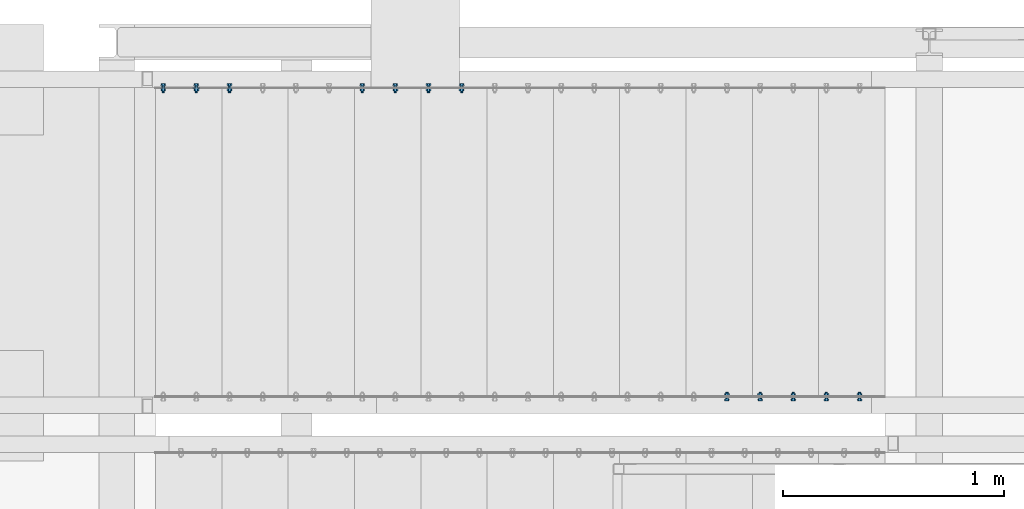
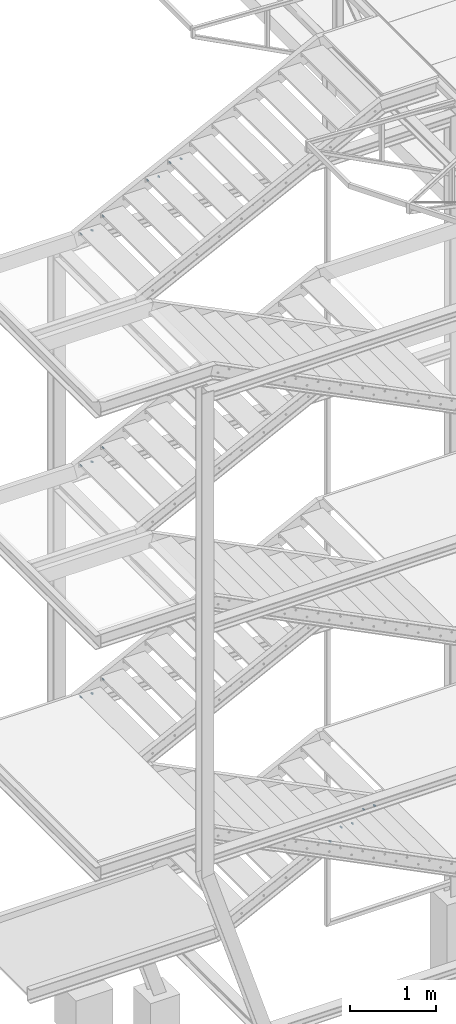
# One storey, part 110 of 132: 18 mechanical fasteners, 11 elements without a shape of their own.
"""IFC2X3 building model written with IfcOpenShell, lengths in millimetres."""

from ifc_helpers import new_model, si_unit, frame, frame_2d, origin_with_axes, origin_2d_with_axis, place, context, subcontext, project, spatial, polyline, circle_curve, parameter, trimmed, segment, composite_curve, circle, outline, extrude, source, transform, mapped, material, type_object, element, aggregate, save


model = new_model("IFC2X3")

# Units and contexts
model_context = context("Model", 3, precision=1e-05, world=origin_with_axes())
body_context = subcontext(model_context, "Body", "Model", "MODEL_VIEW")
ifc_project = project(units=[si_unit("LENGTHUNIT", "METRE", prefix="MILLI"), si_unit("AREAUNIT", "SQUARE_METRE"), si_unit("VOLUMEUNIT", "CUBIC_METRE"), si_unit("MASSUNIT", "GRAM", prefix="KILO"), si_unit("TIMEUNIT", "SECOND"), si_unit("PLANEANGLEUNIT", "RADIAN"), si_unit("SOLIDANGLEUNIT", "STERADIAN"), si_unit("THERMODYNAMICTEMPERATUREUNIT", "DEGREE_CELSIUS"), si_unit("LUMINOUSINTENSITYUNIT", "LUMEN")], contexts=[model_context])

# Site, building, storey
site_placement = place(None, origin_with_axes())
site = spatial("IfcSite", under=ifc_project, at=site_placement, Name="Budowa", CompositionType="ELEMENT")
building_placement = place(site_placement, origin_with_axes())
building = spatial("IfcBuilding", under=site, at=building_placement, Name="Undefined", CompositionType="ELEMENT")
storey_placement = place(building_placement, origin_with_axes())
storey = spatial("IfcBuildingStorey", under=building, at=storey_placement, Name="Undefined", CompositionType="ELEMENT", Elevation=0.0)

# Assembly, mechanical fastener
assembly_1_placement = place(storey_placement, origin_with_axes())
assembly_1 = element("IfcElementAssembly", 1, at=assembly_1_placement, inside=storey, Name="Steel Assembly", AssemblyPlace="NOTDEFINED", PredefinedType="RIGID_FRAME")
ifc_material = material(Name="Undefined")
discrete_accessory_type = type_object("IfcDiscreteAccessoryType", Name="Bolt assembly")
shared_shape_1 = source(origin_with_axes(), body_context, "Body", "SweptSolid", [
    extrude(circle(Radius=7.5, at=origin_2d_with_axis()), frame((0.0, -8.40000000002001, 0.0), z_axis=(0.0, 1.0, 0.0), x_axis=(1.0, 0.0, 0.0)), (0.0, 0.0, 1.0), 8.5),
    extrude(circle(Radius=7.5, at=origin_2d_with_axis()), frame((0.0, -0.1, 0.0), z_axis=(0.0, 1.0, 0.0), x_axis=(1.0, 0.0, 0.0)), (0.0, 0.0, 1.0), 3.1),
    extrude(outline(polyline([(10.39230484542, 0.0), (5.19615242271, 9.00000000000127), (-5.19615242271, 9.00000000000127), (-10.39230484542, 0.0), (-5.19615242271, -9.00000000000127), (5.19615242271, -9.00000000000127), (10.39230484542, 0.0)])), frame((0.0, -18.50000000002, 0.0), z_axis=(0.0, 1.0, 0.0), x_axis=(1.0, 0.0, 0.0)), (0.0, 0.0, 1.0), 7.5),
    extrude(circle(Radius=6.0, at=origin_2d_with_axis()), frame((0.0, -11.00000000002, 0.0), z_axis=(0.0, 1.0, 0.0), x_axis=(1.0, 0.0, 0.0)), (0.0, 0.0, 1.0), 35.0),
    extrude(circle(Radius=12.0, at=origin_2d_with_axis()), frame((0.0, -11.00000000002, 0.0), z_axis=(0.0, 1.0, 0.0), x_axis=(1.0, 0.0, 0.0)), (0.0, 0.0, 1.0), 2.5),
    extrude(circle(Radius=12.0, at=origin_2d_with_axis()), frame((0.0, 3.0, 0.0), z_axis=(0.0, 1.0, 0.0), x_axis=(1.0, 0.0, 0.0)), (0.0, 0.0, 1.0), 2.5),
    extrude(outline(polyline([(10.96965511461, 0.0), (5.484827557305, 9.50000000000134), (-5.484827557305, 9.50000000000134), (-10.96965511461, 0.0), (-5.484827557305, -9.50000000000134), (5.484827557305, -9.50000000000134), (10.96965511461, 0.0)])), frame((0.0, 5.5, 0.0), z_axis=(0.0, 1.0, 0.0), x_axis=(1.0, 0.0, 0.0)), (0.0, 0.0, 1.0), 10.0),
])
mechanical_fastener_1_placement = place(assembly_1_placement, frame((-2920.00000008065, 10925.0000000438, 12949.9999999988), z_axis=(0.0, 0.0, -1.0), x_axis=(1.0, 0.0, 0.0)))
mechanical_fastener_1 = element("IfcMechanicalFastener", 2, at=mechanical_fastener_1_placement, type_object=discrete_accessory_type, material=ifc_material, Name="Bolt assembly", NominalDiameter=12.0, NominalLength=35.0, context=body_context, shape_type="MappedRepresentation", body=[
    mapped(shared_shape_1, transform((35.0, 0.0, 25.0))),
])

assembly_2_placement = place(storey_placement, origin_with_axes())
assembly_2 = element("IfcElementAssembly", 3, at=assembly_2_placement, inside=storey, Name="Steel Assembly", AssemblyPlace="NOTDEFINED", PredefinedType="RIGID_FRAME")
mechanical_fastener_2_placement = place(assembly_2_placement, frame((-3220.00000008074, 10925.0000000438, 12799.9999999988), z_axis=(0.0, 0.0, -1.0), x_axis=(1.0, 0.0, 0.0)))
mechanical_fastener_2 = element("IfcMechanicalFastener", 4, at=mechanical_fastener_2_placement, type_object=discrete_accessory_type, material=ifc_material, Name="Bolt assembly", NominalDiameter=12.0, NominalLength=35.0, context=body_context, shape_type="MappedRepresentation", body=[
    mapped(shared_shape_1, transform((35.0, 0.0, 25.0))),
])

assembly_3_placement = place(storey_placement, origin_with_axes())
assembly_3 = element("IfcElementAssembly", 5, at=assembly_3_placement, inside=storey, Name="Steel Assembly", AssemblyPlace="NOTDEFINED", PredefinedType="RIGID_FRAME")
mechanical_fastener_3_placement = place(assembly_3_placement, frame((-3820.00000008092, 10925.0000000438, 12499.9999999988), z_axis=(0.0, 0.0, -1.0), x_axis=(1.0, 0.0, 0.0)))
mechanical_fastener_3 = element("IfcMechanicalFastener", 6, at=mechanical_fastener_3_placement, type_object=discrete_accessory_type, material=ifc_material, Name="Bolt assembly", NominalDiameter=12.0, NominalLength=35.0, context=body_context, shape_type="MappedRepresentation", body=[
    mapped(shared_shape_1, transform((35.0, 0.0, 25.0))),
])
aggregate(assembly_3, [mechanical_fastener_3])

assembly_4_placement = place(storey_placement, origin_with_axes())
assembly_4 = element("IfcElementAssembly", 7, at=assembly_4_placement, inside=storey, Name="Steel Assembly", AssemblyPlace="NOTDEFINED", PredefinedType="RIGID_FRAME")
mechanical_fastener_4_placement = place(assembly_4_placement, frame((-4120.00000008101, 10925.0000000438, 12349.9999999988), z_axis=(0.0, 0.0, -1.0), x_axis=(1.0, 0.0, 0.0)))
mechanical_fastener_4 = element("IfcMechanicalFastener", 8, at=mechanical_fastener_4_placement, type_object=discrete_accessory_type, material=ifc_material, Name="Bolt assembly", NominalDiameter=12.0, NominalLength=35.0, context=body_context, shape_type="MappedRepresentation", body=[
    mapped(shared_shape_1, transform((35.0, 0.0, 25.0))),
])

assembly_5_placement = place(storey_placement, origin_with_axes())
assembly_5 = element("IfcElementAssembly", 9, at=assembly_5_placement, inside=storey, Name="Steel Assembly", AssemblyPlace="NOTDEFINED", PredefinedType="RIGID_FRAME")
mechanical_fastener_5_placement = place(assembly_5_placement, frame((-3820.00000008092, 10925.0000000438, 9199.99999999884), z_axis=(0.0, 0.0, -1.0), x_axis=(1.0, 0.0, 0.0)))
mechanical_fastener_5 = element("IfcMechanicalFastener", 10, at=mechanical_fastener_5_placement, type_object=discrete_accessory_type, material=ifc_material, Name="Bolt assembly", NominalDiameter=12.0, NominalLength=35.0, context=body_context, shape_type="MappedRepresentation", body=[
    mapped(shared_shape_1, transform((35.0, 0.0, 25.0))),
])
aggregate(assembly_5, [mechanical_fastener_5])

assembly_6_placement = place(storey_placement, origin_with_axes())
assembly_6 = element("IfcElementAssembly", 11, at=assembly_6_placement, inside=storey, Name="Steel Assembly", AssemblyPlace="NOTDEFINED", PredefinedType="RIGID_FRAME")
mechanical_fastener_6_placement = place(assembly_6_placement, frame((-4120.00000008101, 10925.0000000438, 9049.99999999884), z_axis=(0.0, 0.0, -1.0), x_axis=(1.0, 0.0, 0.0)))
mechanical_fastener_6 = element("IfcMechanicalFastener", 12, at=mechanical_fastener_6_placement, type_object=discrete_accessory_type, material=ifc_material, Name="Bolt assembly", NominalDiameter=12.0, NominalLength=35.0, context=body_context, shape_type="MappedRepresentation", body=[
    mapped(shared_shape_1, transform((35.0, 0.0, 25.0))),
])

assembly_7_placement = place(storey_placement, origin_with_axes())
assembly_7 = element("IfcElementAssembly", 13, at=assembly_7_placement, inside=storey, Name="Steel Assembly", AssemblyPlace="NOTDEFINED", PredefinedType="RIGID_FRAME")
mechanical_fastener_7_placement = place(assembly_7_placement, frame((-3820.00000008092, 10925.0000000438, 5899.99999999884), z_axis=(0.0, 0.0, -1.0), x_axis=(1.0, 0.0, 0.0)))
mechanical_fastener_7 = element("IfcMechanicalFastener", 14, at=mechanical_fastener_7_placement, type_object=discrete_accessory_type, material=ifc_material, Name="Bolt assembly", NominalDiameter=12.0, NominalLength=35.0, context=body_context, shape_type="MappedRepresentation", body=[
    mapped(shared_shape_1, transform((35.0, 0.0, 25.0))),
])
aggregate(assembly_7, [mechanical_fastener_7])

assembly_8_placement = place(storey_placement, origin_with_axes())
assembly_8 = element("IfcElementAssembly", 15, at=assembly_8_placement, inside=storey, Name="Steel Assembly", AssemblyPlace="NOTDEFINED", PredefinedType="RIGID_FRAME")
mechanical_fastener_8_placement = place(assembly_8_placement, frame((-4120.000000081, 10925.0000000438, 5749.99999999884), z_axis=(0.0, 0.0, -1.0), x_axis=(1.0, 0.0, 0.0)))
mechanical_fastener_8 = element("IfcMechanicalFastener", 16, at=mechanical_fastener_8_placement, type_object=discrete_accessory_type, material=ifc_material, Name="Bolt assembly", NominalDiameter=12.0, NominalLength=35.0, context=body_context, shape_type="MappedRepresentation", body=[
    mapped(shared_shape_1, transform((35.0, 0.0, 25.0))),
])

assembly_9_placement = place(storey_placement, origin_with_axes())
assembly_9 = element("IfcElementAssembly", 17, at=assembly_9_placement, inside=storey, Name="Steel Assembly", AssemblyPlace="NOTDEFINED", PredefinedType="RIGID_FRAME")
mechanical_fastener_9_placement = place(assembly_9_placement, frame((-820.000000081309, 9525.00000004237, 3949.99999999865), z_axis=(0.0, 0.0, -1.0), x_axis=(-1.0, 0.0, 0.0)))
mechanical_fastener_9 = element("IfcMechanicalFastener", 18, at=mechanical_fastener_9_placement, type_object=discrete_accessory_type, material=ifc_material, Name="Bolt assembly", NominalDiameter=12.0, NominalLength=35.0, context=body_context, shape_type="MappedRepresentation", body=[
    mapped(shared_shape_1, transform((265.0, 0.0, 25.0))),
])

assembly_10_placement = place(storey_placement, origin_with_axes())
assembly_10 = element("IfcElementAssembly", 19, at=assembly_10_placement, inside=storey, Name="Steel Assembly", AssemblyPlace="NOTDEFINED", PredefinedType="RIGID_FRAME")
mechanical_fastener_10_placement = place(assembly_10_placement, frame((-1120.00000008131, 9525.00000004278, 3799.99999999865), z_axis=(0.0, 0.0, -1.0), x_axis=(-1.0, 0.0, 0.0)))
mechanical_fastener_10 = element("IfcMechanicalFastener", 20, at=mechanical_fastener_10_placement, type_object=discrete_accessory_type, material=ifc_material, Name="Bolt assembly", NominalDiameter=12.0, NominalLength=35.0, context=body_context, shape_type="MappedRepresentation", body=[
    mapped(shared_shape_1, transform((265.0, 0.0, 25.0))),
])

# Mechanical fastener
shared_shape_2 = source(origin_with_axes(), body_context, "Body", "SweptSolid", [
    extrude(circle(Radius=7.5, at=origin_2d_with_axis()), frame((0.0, -8.40000000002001, 0.0), z_axis=(0.0, 1.0, 0.0), x_axis=(1.0, 0.0, 0.0)), (0.0, 0.0, 1.0), 8.5),
    extrude(outline(composite_curve([segment(polyline([(-10.0, 7.5), (10.0, 7.5)]), True, "CONTINUOUS"), segment(trimmed(circle_curve(frame_2d((10.0, 0.0), x_axis=(0.0, 1.0)), 7.5), [parameter(0.0)], [parameter(3.14159265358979)], False, "PARAMETER"), True, "CONTINUOUS"), segment(polyline([(10.0, -7.5), (-10.0, -7.5)]), True, "CONTINUOUS"), segment(trimmed(circle_curve(frame_2d((-10.0, 0.0), x_axis=(0.0, -1.0)), 7.5), [parameter(0.0)], [parameter(3.14159265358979)], False, "PARAMETER"), True, "DISCONTINUOUS")], self_intersect=False)), frame((0.0, -0.1, 0.0), z_axis=(0.0, 1.0, 0.0), x_axis=(1.0, 0.0, 0.0)), (0.0, 0.0, 1.0), 3.1),
    extrude(outline(polyline([(10.39230484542, 0.0), (5.19615242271, 9.00000000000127), (-5.19615242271, 9.00000000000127), (-10.39230484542, 0.0), (-5.19615242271, -9.00000000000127), (5.19615242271, -9.00000000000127), (10.39230484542, 0.0)])), frame((0.0, -18.50000000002, 0.0), z_axis=(0.0, 1.0, 0.0), x_axis=(1.0, 0.0, 0.0)), (0.0, 0.0, 1.0), 7.5),
    extrude(circle(Radius=6.0, at=origin_2d_with_axis()), frame((0.0, -11.00000000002, 0.0), z_axis=(0.0, 1.0, 0.0), x_axis=(1.0, 0.0, 0.0)), (0.0, 0.0, 1.0), 35.0),
    extrude(circle(Radius=12.0, at=origin_2d_with_axis()), frame((0.0, -11.00000000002, 0.0), z_axis=(0.0, 1.0, 0.0), x_axis=(1.0, 0.0, 0.0)), (0.0, 0.0, 1.0), 2.5),
    extrude(circle(Radius=12.0, at=origin_2d_with_axis()), frame((0.0, 3.0, 0.0), z_axis=(0.0, 1.0, 0.0), x_axis=(1.0, 0.0, 0.0)), (0.0, 0.0, 1.0), 2.5),
    extrude(outline(polyline([(10.96965511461, 0.0), (5.484827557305, 9.50000000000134), (-5.484827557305, 9.50000000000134), (-10.96965511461, 0.0), (-5.484827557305, -9.50000000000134), (5.484827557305, -9.50000000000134), (10.96965511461, 0.0)])), frame((0.0, 5.5, 0.0), z_axis=(0.0, 1.0, 0.0), x_axis=(1.0, 0.0, 0.0)), (0.0, 0.0, 1.0), 10.0),
])
mechanical_fastener_11_placement = place(assembly_1_placement, frame((-2920.00000008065, 10925.0000000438, 12949.9999999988), z_axis=(0.0, 0.0, -1.0), x_axis=(1.0, 0.0, 0.0)))
mechanical_fastener_11 = element("IfcMechanicalFastener", 21, at=mechanical_fastener_11_placement, type_object=discrete_accessory_type, material=ifc_material, Name="Bolt assembly", NominalDiameter=12.0, NominalLength=35.0, context=body_context, shape_type="MappedRepresentation", body=[
    mapped(shared_shape_2, transform((185.0, 0.0, 25.0))),
])

aggregate(assembly_1, [mechanical_fastener_11, mechanical_fastener_1])

shared_shape_3 = source(origin_with_axes(), body_context, "Body", "SweptSolid", [
    extrude(circle(Radius=7.5, at=origin_2d_with_axis()), frame((0.0, -8.40000000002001, 0.0), z_axis=(0.0, 1.0, 0.0), x_axis=(1.0, 0.0, 0.0)), (0.0, 0.0, 1.0), 8.5),
    extrude(outline(composite_curve([segment(polyline([(-10.0, 7.5), (10.0, 7.5)]), True, "CONTINUOUS"), segment(trimmed(circle_curve(frame_2d((10.0, 0.0), x_axis=(0.0, 1.0)), 7.5), [parameter(0.0)], [parameter(3.14159265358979)], False, "PARAMETER"), True, "CONTINUOUS"), segment(polyline([(10.0, -7.5), (-10.0, -7.5)]), True, "CONTINUOUS"), segment(trimmed(circle_curve(frame_2d((-10.0, 0.0), x_axis=(0.0, -1.0)), 7.5), [parameter(0.0)], [parameter(3.14159265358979)], False, "PARAMETER"), True, "DISCONTINUOUS")], self_intersect=False)), frame((0.0, -0.1, 0.0), z_axis=(0.0, 1.0, 0.0), x_axis=(1.0, 0.0, 0.0)), (0.0, 0.0, 1.0), 3.1),
    extrude(outline(polyline([(10.39230484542, 0.0), (5.19615242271, 9.00000000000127), (-5.19615242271, 9.00000000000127), (-10.39230484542, 0.0), (-5.19615242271, -9.00000000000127), (5.19615242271, -9.00000000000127), (10.39230484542, 0.0)])), frame((0.0, -18.50000000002, 0.0), z_axis=(0.0, 1.0, 0.0), x_axis=(1.0, 0.0, 0.0)), (0.0, 0.0, 1.0), 7.5),
    extrude(circle(Radius=6.0, at=origin_2d_with_axis()), frame((0.0, -11.00000000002, 0.0), z_axis=(0.0, 1.0, 0.0), x_axis=(1.0, 0.0, 0.0)), (0.0, 0.0, 1.0), 35.0),
    extrude(circle(Radius=12.0, at=origin_2d_with_axis()), frame((0.0, -11.00000000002, 0.0), z_axis=(0.0, 1.0, 0.0), x_axis=(1.0, 0.0, 0.0)), (0.0, 0.0, 1.0), 2.5),
    extrude(circle(Radius=12.0, at=origin_2d_with_axis()), frame((0.0, 3.0, 0.0), z_axis=(0.0, 1.0, 0.0), x_axis=(1.0, 0.0, 0.0)), (0.0, 0.0, 1.0), 2.5),
    extrude(outline(polyline([(10.96965511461, 0.0), (5.484827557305, 9.50000000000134), (-5.484827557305, 9.50000000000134), (-10.96965511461, 0.0), (-5.484827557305, -9.50000000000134), (5.484827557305, -9.50000000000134), (10.96965511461, 0.0)])), frame((0.0, 5.5, 0.0), z_axis=(0.0, 1.0, 0.0), x_axis=(1.0, 0.0, 0.0)), (0.0, 0.0, 1.0), 10.0),
])
mechanical_fastener_12_placement = place(assembly_2_placement, frame((-3220.00000008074, 10925.0000000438, 12799.9999999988), z_axis=(0.0, 0.0, -1.0), x_axis=(1.0, 0.0, 0.0)))
mechanical_fastener_12 = element("IfcMechanicalFastener", 22, at=mechanical_fastener_12_placement, type_object=discrete_accessory_type, material=ifc_material, Name="Bolt assembly", NominalDiameter=12.0, NominalLength=35.0, context=body_context, shape_type="MappedRepresentation", body=[
    mapped(shared_shape_3, transform((185.0, 0.0, 25.0))),
])

aggregate(assembly_2, [mechanical_fastener_12, mechanical_fastener_2])

shared_shape_4 = source(origin_with_axes(), body_context, "Body", "SweptSolid", [
    extrude(circle(Radius=7.5, at=origin_2d_with_axis()), frame((0.0, -8.40000000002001, 0.0), z_axis=(0.0, 1.0, 0.0), x_axis=(1.0, 0.0, 0.0)), (0.0, 0.0, 1.0), 8.5),
    extrude(outline(composite_curve([segment(polyline([(-10.0, 7.5), (10.0, 7.5)]), True, "CONTINUOUS"), segment(trimmed(circle_curve(frame_2d((10.0, 0.0), x_axis=(0.0, 1.0)), 7.5), [parameter(0.0)], [parameter(3.14159265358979)], False, "PARAMETER"), True, "CONTINUOUS"), segment(polyline([(10.0, -7.5), (-10.0, -7.5)]), True, "CONTINUOUS"), segment(trimmed(circle_curve(frame_2d((-10.0, 0.0), x_axis=(0.0, -1.0)), 7.5), [parameter(0.0)], [parameter(3.14159265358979)], False, "PARAMETER"), True, "DISCONTINUOUS")], self_intersect=False)), frame((0.0, -0.1, 0.0), z_axis=(0.0, 1.0, 0.0), x_axis=(1.0, 0.0, 0.0)), (0.0, 0.0, 1.0), 3.1),
    extrude(outline(polyline([(10.39230484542, 0.0), (5.19615242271, 9.00000000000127), (-5.19615242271, 9.00000000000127), (-10.39230484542, 0.0), (-5.19615242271, -9.00000000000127), (5.19615242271, -9.00000000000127), (10.39230484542, 0.0)])), frame((0.0, -18.50000000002, 0.0), z_axis=(0.0, 1.0, 0.0), x_axis=(1.0, 0.0, 0.0)), (0.0, 0.0, 1.0), 7.5),
    extrude(circle(Radius=6.0, at=origin_2d_with_axis()), frame((0.0, -11.00000000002, 0.0), z_axis=(0.0, 1.0, 0.0), x_axis=(1.0, 0.0, 0.0)), (0.0, 0.0, 1.0), 35.0),
    extrude(circle(Radius=12.0, at=origin_2d_with_axis()), frame((0.0, -11.00000000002, 0.0), z_axis=(0.0, 1.0, 0.0), x_axis=(1.0, 0.0, 0.0)), (0.0, 0.0, 1.0), 2.5),
    extrude(circle(Radius=12.0, at=origin_2d_with_axis()), frame((0.0, 3.0, 0.0), z_axis=(0.0, 1.0, 0.0), x_axis=(1.0, 0.0, 0.0)), (0.0, 0.0, 1.0), 2.5),
    extrude(outline(polyline([(10.96965511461, 0.0), (5.484827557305, 9.50000000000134), (-5.484827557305, 9.50000000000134), (-10.96965511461, 0.0), (-5.484827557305, -9.50000000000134), (5.484827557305, -9.50000000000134), (10.96965511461, 0.0)])), frame((0.0, 5.5, 0.0), z_axis=(0.0, 1.0, 0.0), x_axis=(1.0, 0.0, 0.0)), (0.0, 0.0, 1.0), 10.0),
])
mechanical_fastener_13_placement = place(assembly_4_placement, frame((-4120.00000008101, 10925.0000000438, 12349.9999999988), z_axis=(0.0, 0.0, -1.0), x_axis=(1.0, 0.0, 0.0)))
mechanical_fastener_13 = element("IfcMechanicalFastener", 23, at=mechanical_fastener_13_placement, type_object=discrete_accessory_type, material=ifc_material, Name="Bolt assembly", NominalDiameter=12.0, NominalLength=35.0, context=body_context, shape_type="MappedRepresentation", body=[
    mapped(shared_shape_4, transform((185.0, 0.0, 25.0))),
])

aggregate(assembly_4, [mechanical_fastener_13, mechanical_fastener_4])

shared_shape_5 = source(origin_with_axes(), body_context, "Body", "SweptSolid", [
    extrude(circle(Radius=7.5, at=origin_2d_with_axis()), frame((0.0, -8.40000000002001, 0.0), z_axis=(0.0, 1.0, 0.0), x_axis=(1.0, 0.0, 0.0)), (0.0, 0.0, 1.0), 8.5),
    extrude(outline(composite_curve([segment(polyline([(-10.0, 7.5), (10.0, 7.5)]), True, "CONTINUOUS"), segment(trimmed(circle_curve(frame_2d((10.0, 0.0), x_axis=(0.0, 1.0)), 7.5), [parameter(0.0)], [parameter(3.14159265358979)], False, "PARAMETER"), True, "CONTINUOUS"), segment(polyline([(10.0, -7.5), (-10.0, -7.5)]), True, "CONTINUOUS"), segment(trimmed(circle_curve(frame_2d((-10.0, 0.0), x_axis=(0.0, -1.0)), 7.5), [parameter(0.0)], [parameter(3.14159265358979)], False, "PARAMETER"), True, "DISCONTINUOUS")], self_intersect=False)), frame((0.0, -0.1, 0.0), z_axis=(0.0, 1.0, 0.0), x_axis=(1.0, 0.0, 0.0)), (0.0, 0.0, 1.0), 3.1),
    extrude(outline(polyline([(10.39230484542, 0.0), (5.19615242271, 9.00000000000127), (-5.19615242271, 9.00000000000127), (-10.39230484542, 0.0), (-5.19615242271, -9.00000000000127), (5.19615242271, -9.00000000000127), (10.39230484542, 0.0)])), frame((0.0, -18.50000000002, 0.0), z_axis=(0.0, 1.0, 0.0), x_axis=(1.0, 0.0, 0.0)), (0.0, 0.0, 1.0), 7.5),
    extrude(circle(Radius=6.0, at=origin_2d_with_axis()), frame((0.0, -11.00000000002, 0.0), z_axis=(0.0, 1.0, 0.0), x_axis=(1.0, 0.0, 0.0)), (0.0, 0.0, 1.0), 35.0),
    extrude(circle(Radius=12.0, at=origin_2d_with_axis()), frame((0.0, -11.00000000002, 0.0), z_axis=(0.0, 1.0, 0.0), x_axis=(1.0, 0.0, 0.0)), (0.0, 0.0, 1.0), 2.5),
    extrude(circle(Radius=12.0, at=origin_2d_with_axis()), frame((0.0, 3.0, 0.0), z_axis=(0.0, 1.0, 0.0), x_axis=(1.0, 0.0, 0.0)), (0.0, 0.0, 1.0), 2.5),
    extrude(outline(polyline([(10.96965511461, 0.0), (5.484827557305, 9.50000000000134), (-5.484827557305, 9.50000000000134), (-10.96965511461, 0.0), (-5.484827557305, -9.50000000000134), (5.484827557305, -9.50000000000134), (10.96965511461, 0.0)])), frame((0.0, 5.5, 0.0), z_axis=(0.0, 1.0, 0.0), x_axis=(1.0, 0.0, 0.0)), (0.0, 0.0, 1.0), 10.0),
])
mechanical_fastener_14_placement = place(assembly_6_placement, frame((-4120.00000008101, 10925.0000000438, 9049.99999999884), z_axis=(0.0, 0.0, -1.0), x_axis=(1.0, 0.0, 0.0)))
mechanical_fastener_14 = element("IfcMechanicalFastener", 24, at=mechanical_fastener_14_placement, type_object=discrete_accessory_type, material=ifc_material, Name="Bolt assembly", NominalDiameter=12.0, NominalLength=35.0, context=body_context, shape_type="MappedRepresentation", body=[
    mapped(shared_shape_5, transform((185.0, 0.0, 25.0))),
])

aggregate(assembly_6, [mechanical_fastener_14, mechanical_fastener_6])

shared_shape_6 = source(origin_with_axes(), body_context, "Body", "SweptSolid", [
    extrude(circle(Radius=7.5, at=origin_2d_with_axis()), frame((0.0, -8.40000000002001, 0.0), z_axis=(0.0, 1.0, 0.0), x_axis=(1.0, 0.0, 0.0)), (0.0, 0.0, 1.0), 8.5),
    extrude(outline(composite_curve([segment(polyline([(-10.0, 7.5), (10.0, 7.5)]), True, "CONTINUOUS"), segment(trimmed(circle_curve(frame_2d((10.0, 0.0), x_axis=(0.0, 1.0)), 7.5), [parameter(0.0)], [parameter(3.14159265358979)], False, "PARAMETER"), True, "CONTINUOUS"), segment(polyline([(10.0, -7.5), (-10.0, -7.5)]), True, "CONTINUOUS"), segment(trimmed(circle_curve(frame_2d((-10.0, 0.0), x_axis=(0.0, -1.0)), 7.5), [parameter(0.0)], [parameter(3.14159265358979)], False, "PARAMETER"), True, "DISCONTINUOUS")], self_intersect=False)), frame((0.0, -0.1, 0.0), z_axis=(0.0, 1.0, 0.0), x_axis=(1.0, 0.0, 0.0)), (0.0, 0.0, 1.0), 3.1),
    extrude(outline(polyline([(10.39230484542, 0.0), (5.19615242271, 9.00000000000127), (-5.19615242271, 9.00000000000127), (-10.39230484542, 0.0), (-5.19615242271, -9.00000000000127), (5.19615242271, -9.00000000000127), (10.39230484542, 0.0)])), frame((0.0, -18.50000000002, 0.0), z_axis=(0.0, 1.0, 0.0), x_axis=(1.0, 0.0, 0.0)), (0.0, 0.0, 1.0), 7.5),
    extrude(circle(Radius=6.0, at=origin_2d_with_axis()), frame((0.0, -11.00000000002, 0.0), z_axis=(0.0, 1.0, 0.0), x_axis=(1.0, 0.0, 0.0)), (0.0, 0.0, 1.0), 35.0),
    extrude(circle(Radius=12.0, at=origin_2d_with_axis()), frame((0.0, -11.00000000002, 0.0), z_axis=(0.0, 1.0, 0.0), x_axis=(1.0, 0.0, 0.0)), (0.0, 0.0, 1.0), 2.5),
    extrude(circle(Radius=12.0, at=origin_2d_with_axis()), frame((0.0, 3.0, 0.0), z_axis=(0.0, 1.0, 0.0), x_axis=(1.0, 0.0, 0.0)), (0.0, 0.0, 1.0), 2.5),
    extrude(outline(polyline([(10.96965511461, 0.0), (5.484827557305, 9.50000000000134), (-5.484827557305, 9.50000000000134), (-10.96965511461, 0.0), (-5.484827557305, -9.50000000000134), (5.484827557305, -9.50000000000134), (10.96965511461, 0.0)])), frame((0.0, 5.5, 0.0), z_axis=(0.0, 1.0, 0.0), x_axis=(1.0, 0.0, 0.0)), (0.0, 0.0, 1.0), 10.0),
])
mechanical_fastener_15_placement = place(assembly_8_placement, frame((-4120.000000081, 10925.0000000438, 5749.99999999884), z_axis=(0.0, 0.0, -1.0), x_axis=(1.0, 0.0, 0.0)))
mechanical_fastener_15 = element("IfcMechanicalFastener", 25, at=mechanical_fastener_15_placement, type_object=discrete_accessory_type, material=ifc_material, Name="Bolt assembly", NominalDiameter=12.0, NominalLength=35.0, context=body_context, shape_type="MappedRepresentation", body=[
    mapped(shared_shape_6, transform((185.0, 0.0, 25.0))),
])

aggregate(assembly_8, [mechanical_fastener_15, mechanical_fastener_8])

shared_shape_7 = source(origin_with_axes(), body_context, "Body", "SweptSolid", [
    extrude(circle(Radius=7.5, at=origin_2d_with_axis()), frame((0.0, -8.40000000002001, 0.0), z_axis=(0.0, 1.0, 0.0), x_axis=(1.0, 0.0, 0.0)), (0.0, 0.0, 1.0), 8.5),
    extrude(outline(composite_curve([segment(polyline([(-10.0, 7.5), (10.0, 7.5)]), True, "CONTINUOUS"), segment(trimmed(circle_curve(frame_2d((10.0, 0.0), x_axis=(0.0, 1.0)), 7.5), [parameter(0.0)], [parameter(3.14159265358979)], False, "PARAMETER"), True, "CONTINUOUS"), segment(polyline([(10.0, -7.5), (-10.0, -7.5)]), True, "CONTINUOUS"), segment(trimmed(circle_curve(frame_2d((-10.0, 0.0), x_axis=(0.0, -1.0)), 7.5), [parameter(0.0)], [parameter(3.14159265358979)], False, "PARAMETER"), True, "DISCONTINUOUS")], self_intersect=False)), frame((0.0, -0.1, 0.0), z_axis=(0.0, 1.0, 0.0), x_axis=(1.0, 0.0, 0.0)), (0.0, 0.0, 1.0), 3.1),
    extrude(outline(polyline([(10.39230484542, 0.0), (5.19615242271, 9.00000000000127), (-5.19615242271, 9.00000000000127), (-10.39230484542, 0.0), (-5.19615242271, -9.00000000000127), (5.19615242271, -9.00000000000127), (10.39230484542, 0.0)])), frame((0.0, -18.50000000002, 0.0), z_axis=(0.0, 1.0, 0.0), x_axis=(1.0, 0.0, 0.0)), (0.0, 0.0, 1.0), 7.5),
    extrude(circle(Radius=6.0, at=origin_2d_with_axis()), frame((0.0, -11.00000000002, 0.0), z_axis=(0.0, 1.0, 0.0), x_axis=(1.0, 0.0, 0.0)), (0.0, 0.0, 1.0), 35.0),
    extrude(circle(Radius=12.0, at=origin_2d_with_axis()), frame((0.0, -11.00000000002, 0.0), z_axis=(0.0, 1.0, 0.0), x_axis=(1.0, 0.0, 0.0)), (0.0, 0.0, 1.0), 2.5),
    extrude(circle(Radius=12.0, at=origin_2d_with_axis()), frame((0.0, 3.0, 0.0), z_axis=(0.0, 1.0, 0.0), x_axis=(1.0, 0.0, 0.0)), (0.0, 0.0, 1.0), 2.5),
    extrude(outline(polyline([(10.96965511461, 0.0), (5.484827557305, 9.50000000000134), (-5.484827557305, 9.50000000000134), (-10.96965511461, 0.0), (-5.484827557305, -9.50000000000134), (5.484827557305, -9.50000000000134), (10.96965511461, 0.0)])), frame((0.0, 5.5, 0.0), z_axis=(0.0, 1.0, 0.0), x_axis=(1.0, 0.0, 0.0)), (0.0, 0.0, 1.0), 10.0),
])
mechanical_fastener_16_placement = place(assembly_9_placement, frame((-820.000000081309, 9525.00000004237, 3949.99999999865), z_axis=(0.0, 0.0, -1.0), x_axis=(-1.0, 0.0, 0.0)))
mechanical_fastener_16 = element("IfcMechanicalFastener", 26, at=mechanical_fastener_16_placement, type_object=discrete_accessory_type, material=ifc_material, Name="Bolt assembly", NominalDiameter=12.0, NominalLength=35.0, context=body_context, shape_type="MappedRepresentation", body=[
    mapped(shared_shape_7, transform((115.0, 0.0, 25.0))),
])

aggregate(assembly_9, [mechanical_fastener_16, mechanical_fastener_9])

shared_shape_8 = source(origin_with_axes(), body_context, "Body", "SweptSolid", [
    extrude(circle(Radius=7.5, at=origin_2d_with_axis()), frame((0.0, -8.40000000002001, 0.0), z_axis=(0.0, 1.0, 0.0), x_axis=(1.0, 0.0, 0.0)), (0.0, 0.0, 1.0), 8.5),
    extrude(outline(composite_curve([segment(polyline([(-10.0, 7.5), (10.0, 7.5)]), True, "CONTINUOUS"), segment(trimmed(circle_curve(frame_2d((10.0, 0.0), x_axis=(0.0, 1.0)), 7.5), [parameter(0.0)], [parameter(3.14159265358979)], False, "PARAMETER"), True, "CONTINUOUS"), segment(polyline([(10.0, -7.5), (-10.0, -7.5)]), True, "CONTINUOUS"), segment(trimmed(circle_curve(frame_2d((-10.0, 0.0), x_axis=(0.0, -1.0)), 7.5), [parameter(0.0)], [parameter(3.14159265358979)], False, "PARAMETER"), True, "DISCONTINUOUS")], self_intersect=False)), frame((0.0, -0.1, 0.0), z_axis=(0.0, 1.0, 0.0), x_axis=(1.0, 0.0, 0.0)), (0.0, 0.0, 1.0), 3.1),
    extrude(outline(polyline([(10.39230484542, 0.0), (5.19615242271, 9.00000000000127), (-5.19615242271, 9.00000000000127), (-10.39230484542, 0.0), (-5.19615242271, -9.00000000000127), (5.19615242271, -9.00000000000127), (10.39230484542, 0.0)])), frame((0.0, -18.50000000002, 0.0), z_axis=(0.0, 1.0, 0.0), x_axis=(1.0, 0.0, 0.0)), (0.0, 0.0, 1.0), 7.5),
    extrude(circle(Radius=6.0, at=origin_2d_with_axis()), frame((0.0, -11.00000000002, 0.0), z_axis=(0.0, 1.0, 0.0), x_axis=(1.0, 0.0, 0.0)), (0.0, 0.0, 1.0), 35.0),
    extrude(circle(Radius=12.0, at=origin_2d_with_axis()), frame((0.0, -11.00000000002, 0.0), z_axis=(0.0, 1.0, 0.0), x_axis=(1.0, 0.0, 0.0)), (0.0, 0.0, 1.0), 2.5),
    extrude(circle(Radius=12.0, at=origin_2d_with_axis()), frame((0.0, 3.0, 0.0), z_axis=(0.0, 1.0, 0.0), x_axis=(1.0, 0.0, 0.0)), (0.0, 0.0, 1.0), 2.5),
    extrude(outline(polyline([(10.96965511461, 0.0), (5.484827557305, 9.50000000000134), (-5.484827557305, 9.50000000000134), (-10.96965511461, 0.0), (-5.484827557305, -9.50000000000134), (5.484827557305, -9.50000000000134), (10.96965511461, 0.0)])), frame((0.0, 5.5, 0.0), z_axis=(0.0, 1.0, 0.0), x_axis=(1.0, 0.0, 0.0)), (0.0, 0.0, 1.0), 10.0),
])
mechanical_fastener_17_placement = place(assembly_10_placement, frame((-1120.00000008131, 9525.00000004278, 3799.99999999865), z_axis=(0.0, 0.0, -1.0), x_axis=(-1.0, 0.0, 0.0)))
mechanical_fastener_17 = element("IfcMechanicalFastener", 27, at=mechanical_fastener_17_placement, type_object=discrete_accessory_type, material=ifc_material, Name="Bolt assembly", NominalDiameter=12.0, NominalLength=35.0, context=body_context, shape_type="MappedRepresentation", body=[
    mapped(shared_shape_8, transform((115.0, 0.0, 25.0))),
])

aggregate(assembly_10, [mechanical_fastener_17, mechanical_fastener_10])

# Assembly, mechanical fastener
assembly_11_placement = place(storey_placement, origin_with_axes())
assembly_11 = element("IfcElementAssembly", 28, at=assembly_11_placement, inside=storey, Name="Steel Assembly", AssemblyPlace="NOTDEFINED", PredefinedType="RIGID_FRAME")
shared_shape_9 = source(origin_with_axes(), body_context, "Body", "SweptSolid", [
    extrude(circle(Radius=7.5, at=origin_2d_with_axis()), frame((0.0, -8.40000000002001, 0.0), z_axis=(0.0, 1.0, 0.0), x_axis=(1.0, 0.0, 0.0)), (0.0, 0.0, 1.0), 8.5),
    extrude(outline(composite_curve([segment(polyline([(-10.0, 7.5), (10.0, 7.5)]), True, "CONTINUOUS"), segment(trimmed(circle_curve(frame_2d((10.0, 0.0), x_axis=(0.0, 1.0)), 7.5), [parameter(0.0)], [parameter(3.14159265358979)], False, "PARAMETER"), True, "CONTINUOUS"), segment(polyline([(10.0, -7.5), (-10.0, -7.5)]), True, "CONTINUOUS"), segment(trimmed(circle_curve(frame_2d((-10.0, 0.0), x_axis=(0.0, -1.0)), 7.5), [parameter(0.0)], [parameter(3.14159265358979)], False, "PARAMETER"), True, "DISCONTINUOUS")], self_intersect=False)), frame((0.0, -0.1, 0.0), z_axis=(0.0, 1.0, 0.0), x_axis=(1.0, 0.0, 0.0)), (0.0, 0.0, 1.0), 3.1),
    extrude(outline(polyline([(10.39230484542, 0.0), (5.19615242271, 9.00000000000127), (-5.19615242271, 9.00000000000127), (-10.39230484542, 0.0), (-5.19615242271, -9.00000000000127), (5.19615242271, -9.00000000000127), (10.39230484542, 0.0)])), frame((0.0, -18.50000000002, 0.0), z_axis=(0.0, 1.0, 0.0), x_axis=(1.0, 0.0, 0.0)), (0.0, 0.0, 1.0), 7.5),
    extrude(circle(Radius=6.0, at=origin_2d_with_axis()), frame((0.0, -11.00000000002, 0.0), z_axis=(0.0, 1.0, 0.0), x_axis=(1.0, 0.0, 0.0)), (0.0, 0.0, 1.0), 35.0),
    extrude(circle(Radius=12.0, at=origin_2d_with_axis()), frame((0.0, -11.00000000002, 0.0), z_axis=(0.0, 1.0, 0.0), x_axis=(1.0, 0.0, 0.0)), (0.0, 0.0, 1.0), 2.5),
    extrude(circle(Radius=12.0, at=origin_2d_with_axis()), frame((0.0, 3.0, 0.0), z_axis=(0.0, 1.0, 0.0), x_axis=(1.0, 0.0, 0.0)), (0.0, 0.0, 1.0), 2.5),
    extrude(outline(polyline([(10.96965511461, 0.0), (5.484827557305, 9.50000000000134), (-5.484827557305, 9.50000000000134), (-10.96965511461, 0.0), (-5.484827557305, -9.50000000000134), (5.484827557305, -9.50000000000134), (10.96965511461, 0.0)])), frame((0.0, 5.5, 0.0), z_axis=(0.0, 1.0, 0.0), x_axis=(1.0, 0.0, 0.0)), (0.0, 0.0, 1.0), 10.0),
])
mechanical_fastener_18_placement = place(assembly_11_placement, frame((-1420.00000008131, 9525.00000004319, 3649.99999999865), z_axis=(0.0, 0.0, -1.0), x_axis=(-1.0, 0.0, 0.0)))
mechanical_fastener_18 = element("IfcMechanicalFastener", 29, at=mechanical_fastener_18_placement, type_object=discrete_accessory_type, material=ifc_material, Name="Bolt assembly", NominalDiameter=12.0, NominalLength=35.0, context=body_context, shape_type="MappedRepresentation", body=[
    mapped(shared_shape_9, transform((115.0, 0.0, 25.0))),
])
aggregate(assembly_11, [mechanical_fastener_18])

save(model, "model.ifc")
